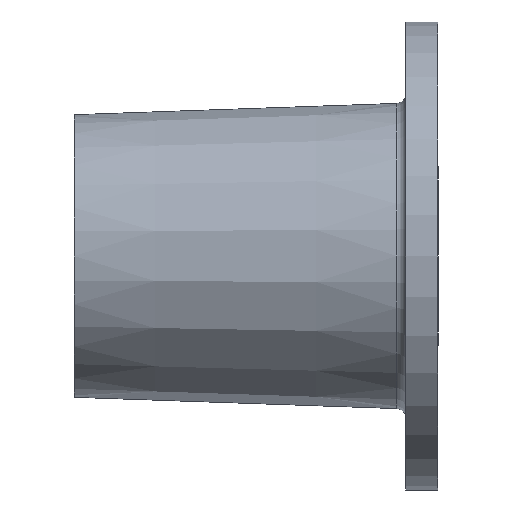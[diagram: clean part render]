
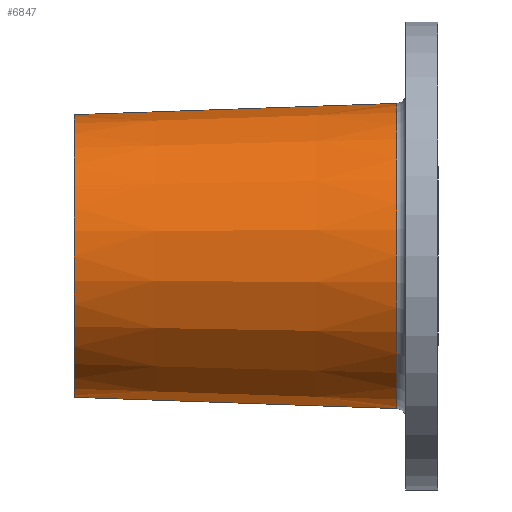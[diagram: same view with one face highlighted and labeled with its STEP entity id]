
A CAD part, left-side view. The second image highlights one B-rep face of the part: STEP entity #6847.
In plain terms, the highlighted conical face has half-angle 2 degrees and reference radius 69.017 mm.
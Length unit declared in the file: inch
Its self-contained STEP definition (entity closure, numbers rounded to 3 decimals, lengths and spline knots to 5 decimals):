
#142 = CARTESIAN_POINT ( 'NONE',  ( 0., 7., 0. ) ) ;
#237 = DIRECTION ( 'NONE',  ( 0., 0., -1. ) ) ;
#249 = CARTESIAN_POINT ( 'NONE',  ( 0., 7., -2.71721 ) ) ;
#333 = EDGE_LOOP ( 'NONE', ( #806, #6754, #2406, #6273 ) ) ;
#487 = VERTEX_POINT ( 'NONE', #6223 ) ;
#806 = ORIENTED_EDGE ( 'NONE', *, *, #2980, .F. ) ;
#859 = CIRCLE ( 'NONE', #4495, 2.71721 ) ;
#966 = AXIS2_PLACEMENT_3D ( 'NONE', #142, #1321, #5080 ) ;
#1130 = LINE ( 'NONE', #4464, #2296 ) ;
#1321 = DIRECTION ( 'NONE',  ( 0., -1., 0. ) ) ;
#2296 = VECTOR ( 'NONE', #4483, 39.37008 ) ;
#2406 = ORIENTED_EDGE ( 'NONE', *, *, #5350, .T. ) ;
#2457 = VERTEX_POINT ( 'NONE', #249 ) ;
#2642 = CIRCLE ( 'NONE', #4378, 2.93393 ) ;
#2884 = CARTESIAN_POINT ( 'NONE',  ( 0., 0.79372, 0. ) ) ;
#2980 = EDGE_CURVE ( 'NONE', #3765, #5904, #3821, .T. ) ;
#3345 = CONICAL_SURFACE ( 'NONE', #966, 2.71721, 0.035 ) ;
#3403 = DIRECTION ( 'NONE',  ( 0., 0., -1. ) ) ;
#3494 = CARTESIAN_POINT ( 'NONE',  ( 0., 7., 2.71721 ) ) ;
#3523 = FACE_OUTER_BOUND ( 'NONE', #333, .T. ) ;
#3534 = DIRECTION ( 'NONE',  ( 0., -0.999, 0.035 ) ) ;
#3573 = CARTESIAN_POINT ( 'NONE',  ( 0., 0.79372, 2.93393 ) ) ;
#3589 = DIRECTION ( 'NONE',  ( 0., -1., 0. ) ) ;
#3765 = VERTEX_POINT ( 'NONE', #4718 ) ;
#3821 = LINE ( 'NONE', #3494, #6424 ) ;
#4378 = AXIS2_PLACEMENT_3D ( 'NONE', #2884, #6524, #3403 ) ;
#4464 = CARTESIAN_POINT ( 'NONE',  ( 0., 7., -2.71721 ) ) ;
#4483 = DIRECTION ( 'NONE',  ( 0., -0.999, -0.035 ) ) ;
#4495 = AXIS2_PLACEMENT_3D ( 'NONE', #6697, #3589, #237 ) ;
#4718 = CARTESIAN_POINT ( 'NONE',  ( 0., 7., 2.71721 ) ) ;
#5080 = DIRECTION ( 'NONE',  ( 0., 0., -1. ) ) ;
#5350 = EDGE_CURVE ( 'NONE', #2457, #487, #1130, .T. ) ;
#5904 = VERTEX_POINT ( 'NONE', #3573 ) ;
#6223 = CARTESIAN_POINT ( 'NONE',  ( 0., 0.79372, -2.93393 ) ) ;
#6273 = ORIENTED_EDGE ( 'NONE', *, *, #6718, .T. ) ;
#6424 = VECTOR ( 'NONE', #3534, 39.37008 ) ;
#6455 = EDGE_CURVE ( 'NONE', #3765, #2457, #859, .T. ) ;
#6524 = DIRECTION ( 'NONE',  ( 0., 1., 0. ) ) ;
#6697 = CARTESIAN_POINT ( 'NONE',  ( 0., 7., 0. ) ) ;
#6718 = EDGE_CURVE ( 'NONE', #487, #5904, #2642, .T. ) ;
#6754 = ORIENTED_EDGE ( 'NONE', *, *, #6455, .T. ) ;
#6847 = ADVANCED_FACE ( 'NONE', ( #3523 ), #3345, .T. ) ;
